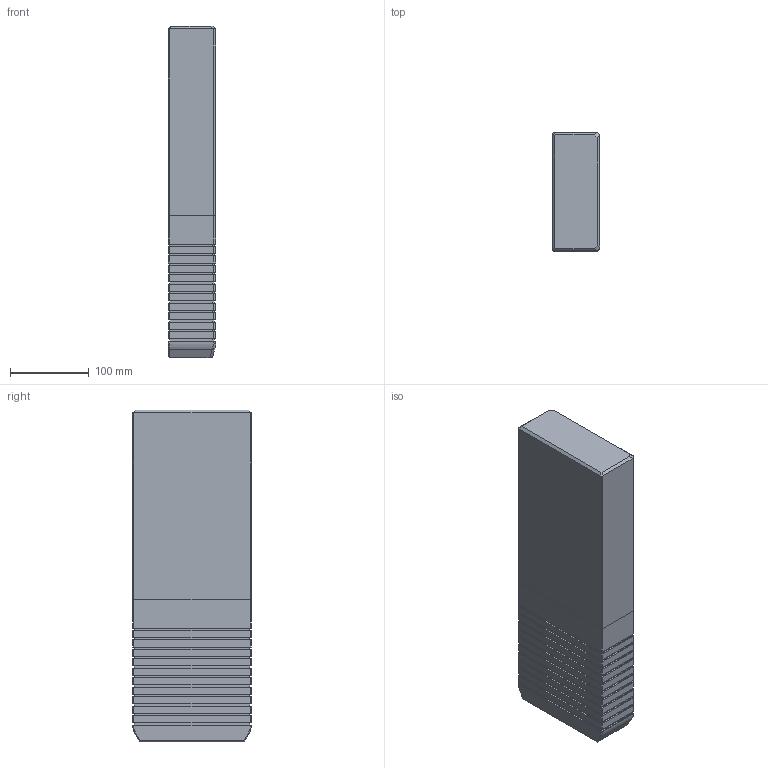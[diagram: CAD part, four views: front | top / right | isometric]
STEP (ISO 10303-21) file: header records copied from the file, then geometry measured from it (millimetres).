
FILE_DESCRIPTION((''),'2;1');
FILE_NAME('','2010-08-30T13:18:06+09:00',('misumi'),(''),'M/STEP i/f 1R2-14','CADmeister v5.1','');
FILE_SCHEMA(('AUTOMOTIVE_DESIGN'));
Length unit declared in the file: millimetre
Products named in the file (1): GWZ150-420
Bounding box: 60 x 150 x 420 mm (x, y, z)
Volume: 3737828.5 mm3; surface area: 204329.2 mm2
Topology: 1 solids, 1 shells, 246 faces, 641 edges, 420 vertices
Faces by surface type: plane 233, bspline 6, cylinder 5, cone 2
Entity records: 7731 total; most frequent: CARTESIAN_POINT 1650, ORIENTED_EDGE 1282, DIRECTION 1113, EDGE_CURVE 641, LINE 615, VECTOR 615, VERTEX_POINT 420, EDGE_LOOP 269
